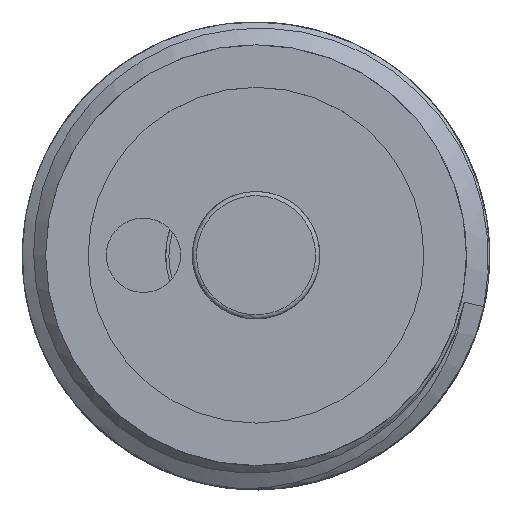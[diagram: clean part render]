
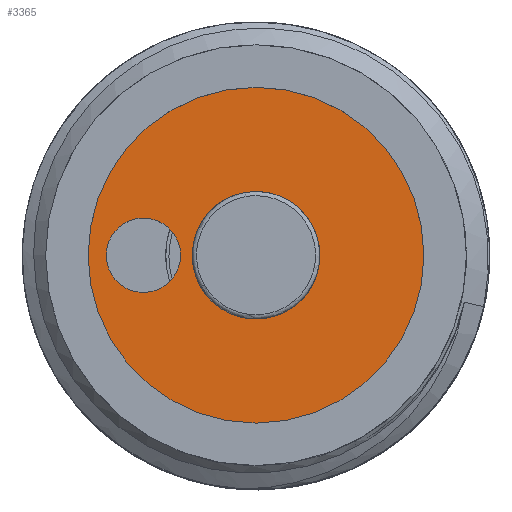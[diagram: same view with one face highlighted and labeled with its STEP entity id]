
A CAD part, top view. The second image highlights one B-rep face of the part: STEP entity #3365.
In plain terms, the highlighted planar face has unit normal (0, 0, 1).
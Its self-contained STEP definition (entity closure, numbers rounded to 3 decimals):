
#3091=PLANE('',#6656);
#3365=ADVANCED_FACE('',(#3493,#3494,#3495),#3091,.F.);
#3493=FACE_BOUND('',#3826,.T.);
#3494=FACE_BOUND('',#3827,.T.);
#3495=FACE_BOUND('',#3828,.T.);
#3826=EDGE_LOOP('',(#5188));
#3827=EDGE_LOOP('',(#5189));
#3828=EDGE_LOOP('',(#5190));
#5188=ORIENTED_EDGE('',*,*,#6339,.F.);
#5189=ORIENTED_EDGE('',*,*,#6341,.F.);
#5190=ORIENTED_EDGE('',*,*,#6343,.F.);
#5658=VERTEX_POINT('',#17252);
#5660=VERTEX_POINT('',#17257);
#5662=VERTEX_POINT('',#17262);
#6339=EDGE_CURVE('',#5658,#5658,#6395,.T.);
#6341=EDGE_CURVE('',#5660,#5660,#6397,.T.);
#6343=EDGE_CURVE('',#5662,#5662,#6399,.T.);
#6395=CIRCLE('',#6648,1.75);
#6397=CIRCLE('',#6651,2.);
#6399=CIRCLE('',#6654,8.5);
#6648=AXIS2_PLACEMENT_3D('',#17251,#7654,#7655);
#6651=AXIS2_PLACEMENT_3D('',#17256,#7660,#7661);
#6654=AXIS2_PLACEMENT_3D('',#17261,#7666,#7667);
#6656=AXIS2_PLACEMENT_3D('',#17264,#7670,#7671);
#7654=DIRECTION('',(0.,0.,1.));
#7655=DIRECTION('',(0.,-1.,0.));
#7660=DIRECTION('',(0.,0.,1.));
#7661=DIRECTION('',(0.,-1.,0.));
#7666=DIRECTION('',(0.,0.,-1.));
#7667=DIRECTION('',(0.,-1.,0.));
#7670=DIRECTION('',(0.,0.,-1.));
#7671=DIRECTION('',(0.,1.,0.));
#17251=CARTESIAN_POINT('',(9.888,16.823,0.));
#17252=CARTESIAN_POINT('',(9.888,15.073,0.));
#17256=CARTESIAN_POINT('',(15.188,16.823,0.));
#17257=CARTESIAN_POINT('',(15.188,14.823,0.));
#17261=CARTESIAN_POINT('',(15.188,16.823,0.));
#17262=CARTESIAN_POINT('',(15.188,8.323,0.));
#17264=CARTESIAN_POINT('',(15.188,16.823,0.));
